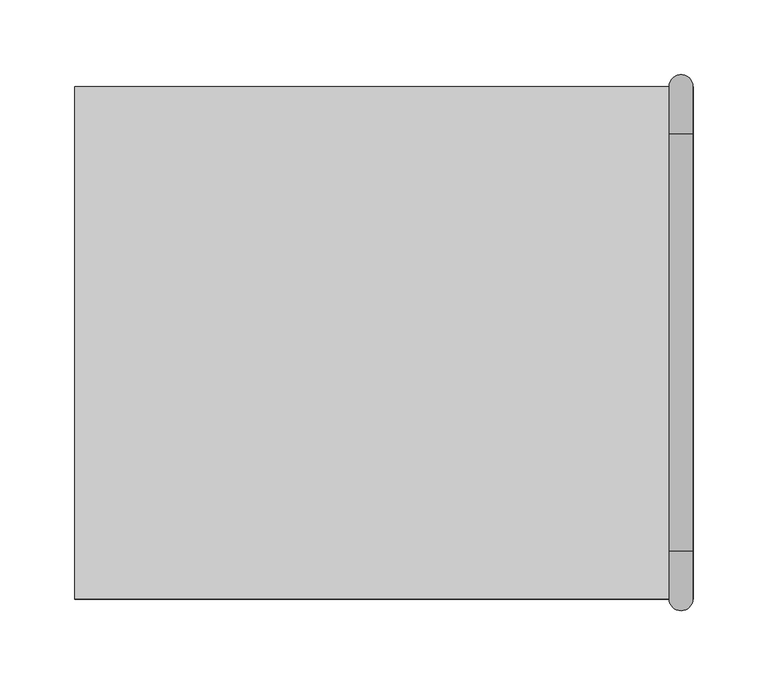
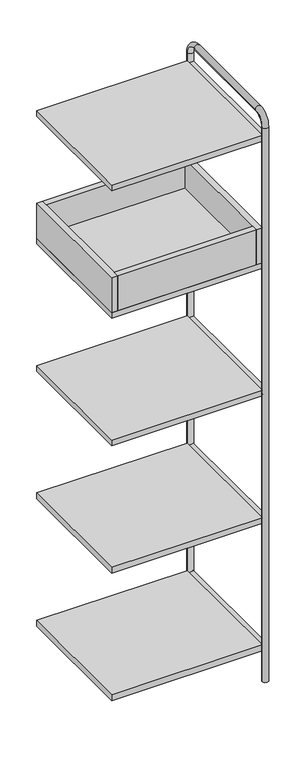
"""IFC4 building model written with IfcOpenShell, lengths in millimetres: furniture geometry, Tubbe Bookcase_Intermediate Unit_4x1 : Tubbe Bookcase_Intermediate Unit_4x1_4x2."""

from ifc_helpers import new_model, si_unit, point, frame, frame_2d, origin, place, context, project, spatial, polyline, circle_curve, ellipse_curve, trimmed, segment, composite_curve, outline, extrude, source, transform, mapped, element, save
from ifc_brep_helpers import plane_surface, cylinder_surface, revolved_surface, advanced_brep


def furniture_fd0f974a(model_context):
    return source(origin(), model_context, "Body", "SolidModel", [
        extrude(outline(polyline([(183.0, 155.5), (183.0, -155.5), (-183.0, -155.5), (-183.0, 155.5), (183.0, 155.5)])), frame((0.0, 0.0, 1170.0), z_axis=(0.0, 0.0, 1.0), x_axis=(1.0, 0.0, 0.0)), (0.0, 0.0, 1.0), 16.0),
        extrude(outline(polyline([(183.0, -171.5), (-183.0, -171.5), (-183.0, -155.5), (183.0, -155.5), (183.0, -171.5)])), frame((0.0, 0.0, 1170.0), z_axis=(0.0, 0.0, 1.0), x_axis=(1.0, 0.0, 0.0)), (0.0, 0.0, 1.0), 98.0),
        extrude(outline(polyline([(183.0, 155.5), (-183.0, 155.5), (-183.0, 171.5), (183.0, 171.5), (183.0, 155.5)])), frame((0.0, 0.0, 1170.0), z_axis=(0.0, 0.0, 1.0), x_axis=(1.0, 0.0, 0.0)), (0.0, 0.0, 1.0), 98.0),
        extrude(outline(polyline([(199.0, 171.5), (199.0, -171.5), (183.0, -171.5), (183.0, 171.5), (199.0, 171.5)])), frame((0.0, 0.0, 1170.0), z_axis=(0.0, 0.0, 1.0), x_axis=(1.0, 0.0, 0.0)), (0.0, 0.0, 1.0), 98.0),
        extrude(outline(polyline([(-183.0, 171.5), (-183.0, -171.5), (-199.0, -171.5), (-199.0, 171.5), (-183.0, 171.5)])), frame((0.0, 0.0, 1170.0), z_axis=(0.0, 0.0, 1.0), x_axis=(1.0, 0.0, 0.0)), (0.0, 0.0, 1.0), 98.0),
        extrude(outline(polyline([(199.0, 171.5), (199.0, -171.5), (-199.0, -171.5), (-199.0, 171.5), (199.0, 171.5)])), frame((0.0, 0.0, 1510.0), z_axis=(0.0, 0.0, 1.0), x_axis=(1.0, 0.0, 0.0)), (0.0, 0.0, 1.0), 16.0),
        extrude(outline(polyline([(199.0, 171.5), (199.0, -171.5), (-199.0, -171.5), (-199.0, 171.5), (199.0, 171.5)])), frame((0.0, 0.0, 1154.0), z_axis=(0.0, 0.0, 1.0), x_axis=(1.0, 0.0, 0.0)), (0.0, 0.0, 1.0), 16.0),
        extrude(outline(polyline([(199.0, 171.5), (199.0, -171.5), (-199.0, -171.5), (-199.0, 171.5), (199.0, 171.5)])), frame((0.0, 0.0, 798.0), z_axis=(0.0, 0.0, 1.0), x_axis=(1.0, 0.0, 0.0)), (0.0, 0.0, 1.0), 16.0),
        extrude(outline(polyline([(199.0, 171.5), (199.0, -171.5), (-199.0, -171.5), (-199.0, 171.5), (199.0, 171.5)])), frame((0.0, 0.0, 442.0), z_axis=(0.0, 0.0, 1.0), x_axis=(1.0, 0.0, 0.0)), (0.0, 0.0, 1.0), 16.0),
        extrude(outline(polyline([(199.0, 171.5), (199.0, -171.5), (-199.0, -171.5), (-199.0, 171.5), (199.0, 171.5)])), frame((0.0, 0.0, 86.0), z_axis=(0.0, 0.0, 1.0), x_axis=(1.0, 0.0, 0.0)), (0.0, 0.0, 1.0), 16.0),
        advanced_brep(
        [(198.7794453, 171.5, 0.0), (214.7794453, 171.5, 0.0), (198.7794453, 171.5, 1548.0), (214.7794453, 171.5, 1548.0), (214.7794453, 139.5, 1580.0), (198.7794453, 139.5, 1580.0), (198.7794453, -139.5, 1580.0), (214.7794453, -139.5, 1580.0), (214.7794453, -171.5, 1548.0), (198.7794453, -171.5, 1548.0), (198.7794453, -171.5, 0.0), (214.7794453, -171.5, 0.0)],
        [
            (0, 1, circle_curve(frame((206.7794453, 171.5, 0.0), z_axis=(0.0, 0.0, -1.0), x_axis=(1.0, 0.0, 0.0)), 8.0)),
            (1, 0, circle_curve(frame((206.7794453, 171.5, 0.0), z_axis=(0.0, 0.0, -1.0), x_axis=(1.0, 0.0, 0.0)), 8.0)),
            (0, 2),
            (2, 3, circle_curve(frame((206.7794453, 171.5, 1548.0), z_axis=(0.0, 0.0, -1.0), x_axis=(1.0, 0.0, 0.0)), 8.0)),
            (3, 1),
            (3, 2, circle_curve(frame((206.7794453, 171.5, 1548.0), z_axis=(0.0, 0.0, -1.0), x_axis=(1.0, 0.0, 0.0)), 8.0)),
            (4, 5, circle_curve(frame((206.7794453, 139.5, 1580.0), z_axis=(0.0, -1.0, 0.0), x_axis=(1.0, 0.0, 0.0)), 8.0)),
            (5, 6),
            (6, 7, circle_curve(frame((206.7794453, -139.5, 1580.0), z_axis=(0.0, 1.0, 0.0), x_axis=(1.0, 0.0, 0.0)), 8.0)),
            (7, 4),
            (5, 4, circle_curve(frame((206.7794453, 139.5, 1580.0), z_axis=(0.0, -1.0, 0.0), x_axis=(1.0, 0.0, 0.0)), 8.0)),
            (7, 6, circle_curve(frame((206.7794453, -139.5, 1580.0), z_axis=(0.0, 1.0, 0.0), x_axis=(1.0, 0.0, 0.0)), 8.0)),
            (8, 7, circle_curve(frame((214.7794453, -139.5, 1548.0), z_axis=(-1.0, 0.0, 0.0), x_axis=(0.0, 0.0, 1.0)), 32.0)),
            (6, 9, circle_curve(frame((198.7794453, -139.5, 1548.0), z_axis=(1.0, 0.0, 0.0), x_axis=(0.0, 0.0, 1.0)), 32.0)),
            (9, 8, circle_curve(frame((206.7794453, -171.5, 1548.0), z_axis=(0.0, 0.0, 1.0), x_axis=(1.0, 0.0, 0.0)), 8.0)),
            (8, 9, circle_curve(frame((206.7794453, -171.5, 1548.0), z_axis=(0.0, 0.0, 1.0), x_axis=(1.0, 0.0, 0.0)), 8.0)),
            (10, 11, circle_curve(frame((206.7794453, -171.5, 0.0), z_axis=(0.0, 0.0, -1.0), x_axis=(1.0, 0.0, 0.0)), 8.0)),
            (11, 10, circle_curve(frame((206.7794453, -171.5, 0.0), z_axis=(0.0, 0.0, -1.0), x_axis=(1.0, 0.0, 0.0)), 8.0)),
            (9, 10),
            (11, 8),
            (4, 3, circle_curve(frame((214.7794453, 139.5, 1548.0), z_axis=(-1.0, 0.0, 0.0), x_axis=(0.0, 1.0, 0.0)), 32.0)),
            (2, 5, circle_curve(frame((198.7794453, 139.5, 1548.0), z_axis=(1.0, 0.0, 0.0), x_axis=(0.0, 1.0, 0.0)), 32.0)),
        ],
        [
            plane_surface(frame((207.0, 171.5, 0.0), z_axis=(0.0, 0.0, -1.0), x_axis=(1.0, 0.0, 0.0))),
            cylinder_surface(frame((206.7794453, 171.5, 0.0), z_axis=(0.0, 0.0, -1.0), x_axis=(1.0, 0.0, 0.0)), 8.0),
            cylinder_surface(frame((206.7794453, 139.5, 1580.0), z_axis=(0.0, 1.0, 0.0), x_axis=(1.0, 0.0, 0.0)), 8.0),
            revolved_surface(trimmed(ellipse_curve(frame((206.7794453, -139.5, 1580.0), z_axis=(0.0, 1.0, 0.0), x_axis=(1.0, 0.0, 0.0)), 8.0, 8.0), [point((198.7794453, -139.5, 1580.0))], [point((214.7794453, -139.5, 1580.0))], True, "CARTESIAN"), (207.0, -139.5, 1548.0), (1.0, 0.0, 0.0)),
            revolved_surface(trimmed(ellipse_curve(frame((206.7794453, -139.5, 1580.0), z_axis=(0.0, 1.0, 0.0), x_axis=(1.0, 0.0, 0.0)), 8.0, 8.0), [point((214.7794453, -139.5, 1580.0))], [point((198.7794453, -139.5, 1580.0))], True, "CARTESIAN"), (207.0, -139.5, 1548.0), (1.0, 0.0, 0.0)),
            plane_surface(frame((207.0, -171.5, 0.0), z_axis=(0.0, 0.0, -1.0), x_axis=(1.0, 0.0, 0.0))),
            cylinder_surface(frame((206.7794453, -171.5, 1548.0), z_axis=(0.0, 0.0, 1.0), x_axis=(1.0, 0.0, 0.0)), 8.0),
            revolved_surface(trimmed(ellipse_curve(frame((206.7794453, 171.5, 1548.0), z_axis=(0.0, 0.0, -1.0), x_axis=(1.0, 0.0, 0.0)), 8.0, 8.0), [point((198.7794453, 171.5, 1548.0))], [point((214.7794453, 171.5, 1548.0))], True, "CARTESIAN"), (207.0, 139.5, 1548.0), (1.0, 0.0, 0.0)),
            revolved_surface(trimmed(ellipse_curve(frame((206.7794453, 171.5, 1548.0), z_axis=(0.0, 0.0, -1.0), x_axis=(1.0, 0.0, 0.0)), 8.0, 8.0), [point((214.7794453, 171.5, 1548.0))], [point((198.7794453, 171.5, 1548.0))], True, "CARTESIAN"), (207.0, 139.5, 1548.0), (1.0, 0.0, 0.0)),
        ],
        [
            (0, [[1, 2]]),
            (1, [[-1, 3, 4, 5]]),
            (1, [[-2, -5, 6, -3]]),
            (2, [[7, 8, 9, 10]]),
            (2, [[11, -10, 12, -8]]),
            (3, [[13, -9, 14, 15]]),
            (4, [[-14, -12, -13, 16]]),
            (5, [[17, 18]]),
            (6, [[-15, 19, -18, 20]]),
            (6, [[-16, -20, -17, -19]]),
            (7, [[21, -4, 22, -7]]),
            (8, [[-22, -6, -21, -11]]),
        ],
    ),
        extrude(outline(composite_curve([segment(trimmed(circle_curve(frame_2d((806.0, 207.0)), 8.0), [point((806.0, 199.0))], [point((806.0, 215.0))], False, "CARTESIAN"), True, "CONTINUOUS"), segment(trimmed(circle_curve(frame_2d((806.0, 207.0)), 8.0), [point((806.0, 215.0))], [point((806.0, 199.0))], False, "CARTESIAN"), True, "CONTINUOUS")], self_intersect=False)), frame((0.0, -171.5, 0.0), z_axis=(0.0, 1.0, 0.0), x_axis=(0.0, 0.0, 1.0)), (0.0, 0.0, 1.0), 343.0),
        extrude(outline(composite_curve([segment(trimmed(circle_curve(frame_2d((450.0, 207.0)), 8.0), [point((450.0, 199.0))], [point((450.0, 215.0))], False, "CARTESIAN"), True, "CONTINUOUS"), segment(trimmed(circle_curve(frame_2d((450.0, 207.0)), 8.0), [point((450.0, 215.0))], [point((450.0, 199.0))], False, "CARTESIAN"), True, "CONTINUOUS")], self_intersect=False)), frame((0.0, -171.5, 0.0), z_axis=(0.0, 1.0, 0.0), x_axis=(0.0, 0.0, 1.0)), (0.0, 0.0, 1.0), 343.0),
        extrude(outline(composite_curve([segment(trimmed(circle_curve(frame_2d((94.0, 207.0)), 8.0), [point((94.0, 199.0))], [point((94.0, 215.0))], False, "CARTESIAN"), True, "CONTINUOUS"), segment(trimmed(circle_curve(frame_2d((94.0, 207.0)), 8.0), [point((94.0, 215.0))], [point((94.0, 199.0))], False, "CARTESIAN"), True, "CONTINUOUS")], self_intersect=False)), frame((0.0, -171.5, 0.0), z_axis=(0.0, 1.0, 0.0), x_axis=(0.0, 0.0, 1.0)), (0.0, 0.0, 1.0), 343.0),
        extrude(outline(composite_curve([segment(trimmed(circle_curve(frame_2d((1518.0, 207.0)), 8.0), [point((1518.0, 199.0))], [point((1518.0, 215.0))], False, "CARTESIAN"), True, "CONTINUOUS"), segment(trimmed(circle_curve(frame_2d((1518.0, 207.0)), 8.0), [point((1518.0, 215.0))], [point((1518.0, 199.0))], False, "CARTESIAN"), True, "CONTINUOUS")], self_intersect=False)), frame((0.0, -171.5, 0.0), z_axis=(0.0, 1.0, 0.0), x_axis=(0.0, 0.0, 1.0)), (0.0, 0.0, 1.0), 343.0),
        extrude(outline(composite_curve([segment(trimmed(circle_curve(frame_2d((1162.0, 207.0)), 8.0), [point((1162.0, 199.0))], [point((1162.0, 215.0))], False, "CARTESIAN"), True, "CONTINUOUS"), segment(trimmed(circle_curve(frame_2d((1162.0, 207.0)), 8.0), [point((1162.0, 215.0))], [point((1162.0, 199.0))], False, "CARTESIAN"), True, "CONTINUOUS")], self_intersect=False)), frame((0.0, -171.5, 0.0), z_axis=(0.0, 1.0, 0.0), x_axis=(0.0, 0.0, 1.0)), (0.0, 0.0, 1.0), 343.0),
    ])


if __name__ == "__main__":
    model = new_model("IFC4")
    model_context = context("Model", 3, world=origin())
    ifc_project = project(units=[si_unit("LENGTHUNIT", "METRE", prefix="MILLI")], contexts=[model_context])
    site = spatial("IfcSite", under=ifc_project)
    building = spatial("IfcBuilding", under=site)
    placement = place(None, origin())
    furniture_shape = furniture_fd0f974a(model_context)
    element("IfcFurniture", 1, ObjectType="Tubbe Bookcase_Intermediate Unit_4x1 : Tubbe Bookcase_Intermediate Unit_4x1_4x2", at=placement, inside=building, context=model_context, shape_type="MappedRepresentation", body=[
        mapped(furniture_shape, transform((0.0, 0.0, 0.0), x_axis=(1.0, 0.0, 0.0), y_axis=(0.0, 1.0, 0.0), z_axis=(0.0, 0.0, 1.0))),
    ])
    save(model, "model.ifc")
